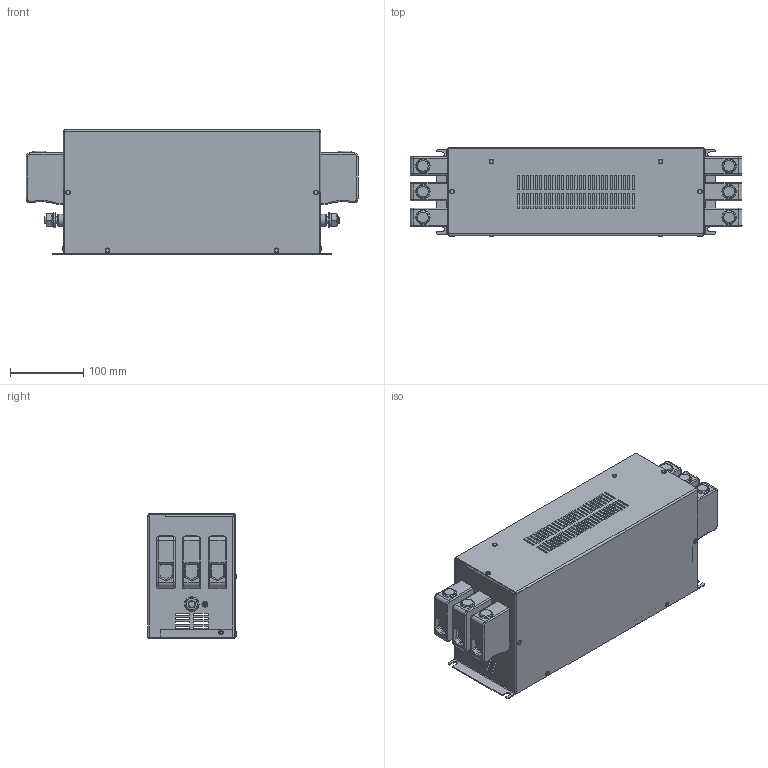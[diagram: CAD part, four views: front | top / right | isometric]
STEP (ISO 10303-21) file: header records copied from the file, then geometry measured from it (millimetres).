
FILE_DESCRIPTION((''),'2;1');
FILE_NAME('P:\Construction\Filter_Marketing\FN\FN3268\FN3268-180-40\FN3268-180-40.stp','2014-06-27T14:25:21',('erika.jenzer'),(''),'Autodesk Inventor 2013','Autodesk Inventor 2013','');
FILE_SCHEMA(('AUTOMOTIVE_DESIGN { 1 0 10303 214 1 1 1 1 }'));
Length unit declared in the file: millimetre
Products named in the file (1): FN3268-180-40
Bounding box: 452 x 120.8 x 170.8 mm (x, y, z)
Volume: 928797 mm3; surface area: 556375.2 mm2
Topology: 1 solids, 3 shells, 1276 faces, 3311 edges, 2139 vertices
Faces by surface type: plane 818, cylinder 332, torus 58, cone 30, bspline 26, sphere 12
Full cylindrical faces by diameter (mm): 3.2 x10, 3.3 x10, 3.5 x10, 6.5 x10, 7 x2, 8 x2, 9.188 x2, 10 x4, 10.5 x2, 12.7 x2, 13.949 x2, 15.4 x2, 15.7 x2, 16.5 x2, 20 x2
Entity records: 40530 total; most frequent: CARTESIAN_POINT 7721, DIRECTION 6428, ORIENTED_EDGE 6376, EDGE_CURVE 3188, VECTOR 2266, LINE 2266, VERTEX_POINT 2124, AXIS2_PLACEMENT_3D 2081
